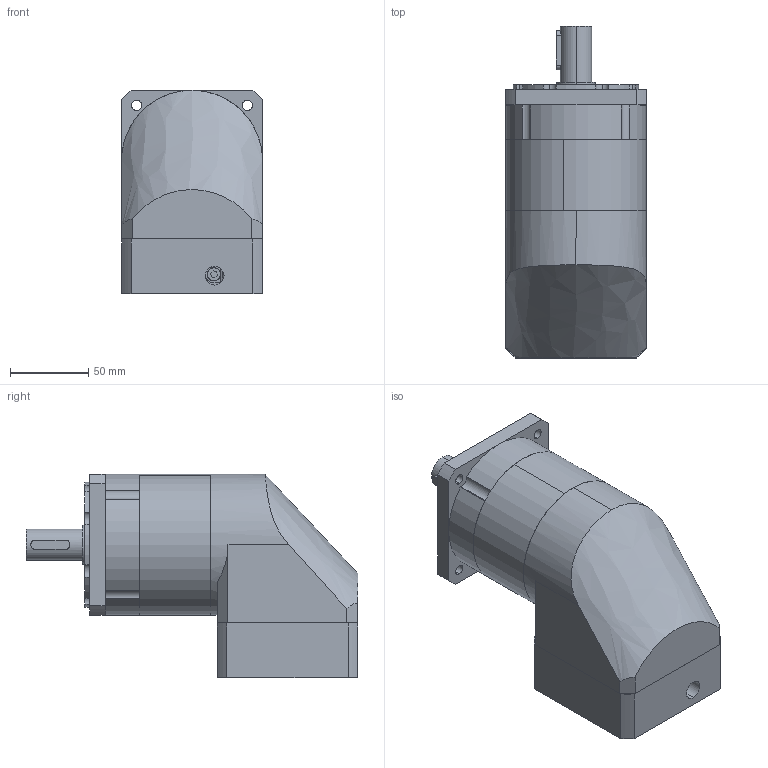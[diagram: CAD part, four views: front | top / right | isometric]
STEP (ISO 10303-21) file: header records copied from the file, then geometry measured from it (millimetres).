
FILE_DESCRIPTION (( 'STEP AP203' ), '1' );
FILE_NAME ('PVFA090-L2-11-60-75.STEP', '2023-07-11T03:11:05', ( 'Windows User' ), ( 'P R C' ), 'SwSTEP 2.0', 'SolidWorks 2016', '' );
FILE_SCHEMA (( 'CONFIG_CONTROL_DESIGN' ));
Length unit declared in the file: millimetre
Products named in the file (10): BJT-14-11; PVFA090 眊极_揤翉; PVFA090-L2-11-60-75; PVFA090 內齿圈-优化_二级内齿圈; PVFA090 奻屳唳_梓袧; PVFA090-蟀諉啣-60-M5-75; PVFA090-薊粣ん-14; M5 x 20_1; 粣創-3206A 30x62x23.8_2_1; 邧埴瑩 6x6x25
Assembly tree (9 placements, depth 2):
  PVFA090-L2-11-60-75
    PVFA090 眊极_揤翉
    PVFA090 內齿圈-优化_二级内齿圈
    PVFA090 奻屳唳_梓袧
    PVFA090-蟀諉啣-60-M5-75
    PVFA090-薊粣ん-14
    M5 x 20_1
    粣創-3206A 30x62x23.8_2_1
    邧埴瑩 6x6x25
    BJT-14-11
Bounding box: 90 x 212 x 130 mm (x, y, z)
Volume: 1253371 mm3; surface area: 198788 mm2
Topology: 18 solids, 18 shells, 1161 faces, 3293 edges, 2170 vertices
Faces by surface type: plane 602, bspline 282, cylinder 234, cone 43
Entity records: 48506 total; most frequent: CARTESIAN_POINT 18856, ORIENTED_EDGE 6546, DIRECTION 5126, EDGE_CURVE 3273, VERTEX_POINT 2170, LINE 1720, VECTOR 1720, AXIS2_PLACEMENT_3D 1703
